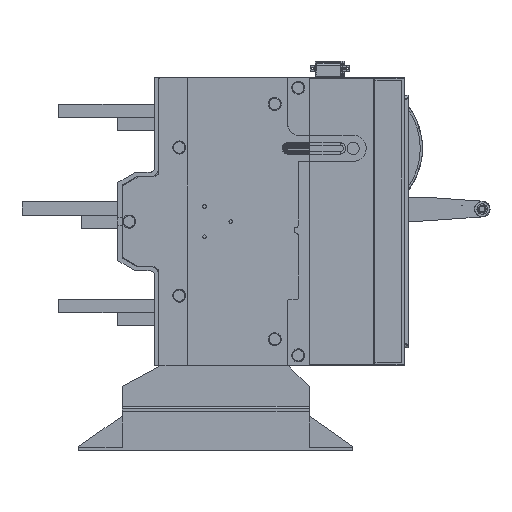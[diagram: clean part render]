
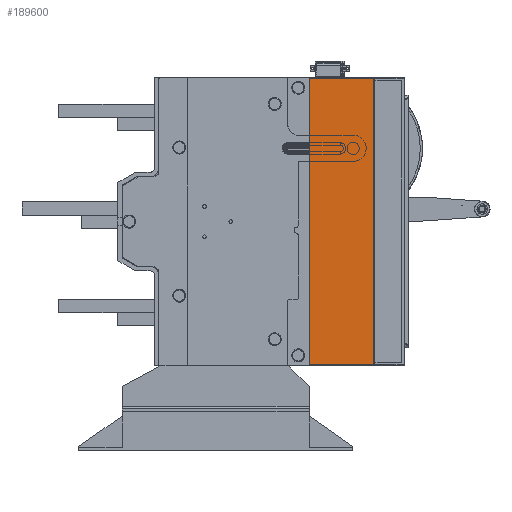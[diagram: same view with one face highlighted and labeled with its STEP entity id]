
A CAD part, left-side view. The second image highlights one B-rep face of the part: STEP entity #189600.
In plain terms, the highlighted planar face has unit normal (-1, 0, 0) as drawn and (1, 0, 0) by its records, which use the part's own axes.
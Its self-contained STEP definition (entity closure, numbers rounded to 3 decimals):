
#8621 = CARTESIAN_POINT ( 'NONE',  ( 250., -164.5, 0.5 ) ) ;
#9346 = AXIS2_PLACEMENT_3D ( 'NONE', #40882, #171751, #63600 ) ;
#14218 = CARTESIAN_POINT ( 'NONE',  ( 250., -164.5, 74. ) ) ;
#21871 = LINE ( 'NONE', #199462, #50068 ) ;
#26431 = DIRECTION ( 'NONE',  ( 0., 0., 1. ) ) ;
#27478 = DIRECTION ( 'NONE',  ( 0., 1., 0. ) ) ;
#40882 = CARTESIAN_POINT ( 'NONE',  ( 250., -165., 0. ) ) ;
#45006 = CARTESIAN_POINT ( 'NONE',  ( 250., 164.5, 0.5 ) ) ;
#48637 = ORIENTED_EDGE ( 'NONE', *, *, #171190, .F. ) ;
#50068 = VECTOR ( 'NONE', #27478, 1000. ) ;
#56962 = EDGE_CURVE ( 'NONE', #61477, #165522, #21871, .T. ) ;
#61477 = VERTEX_POINT ( 'NONE', #8621 ) ;
#63600 = DIRECTION ( 'NONE',  ( 0., 1., 0. ) ) ;
#67701 = LINE ( 'NONE', #69106, #86766 ) ;
#69106 = CARTESIAN_POINT ( 'NONE',  ( 250., 164.5, 0. ) ) ;
#83612 = ORIENTED_EDGE ( 'NONE', *, *, #191726, .T. ) ;
#86766 = VECTOR ( 'NONE', #26431, 1000. ) ;
#104469 = EDGE_LOOP ( 'NONE', ( #83612, #228525, #122416, #48637 ) ) ;
#115257 = VERTEX_POINT ( 'NONE', #206949 ) ;
#122416 = ORIENTED_EDGE ( 'NONE', *, *, #250679, .T. ) ;
#148438 = DIRECTION ( 'NONE',  ( 0., 1., 0. ) ) ;
#148963 = FACE_OUTER_BOUND ( 'NONE', #104469, .T. ) ;
#162968 = DIRECTION ( 'NONE',  ( 0., 0., -1. ) ) ;
#164338 = LINE ( 'NONE', #230886, #228372 ) ;
#165522 = VERTEX_POINT ( 'NONE', #45006 ) ;
#171190 = EDGE_CURVE ( 'NONE', #250191, #115257, #277613, .T. ) ;
#171751 = DIRECTION ( 'NONE',  ( 1., 0., 0. ) ) ;
#189600 = ADVANCED_FACE ( 'NONE', ( #148963 ), #235527, .T. ) ;
#189715 = VECTOR ( 'NONE', #148438, 1000. ) ;
#191726 = EDGE_CURVE ( 'NONE', #250191, #61477, #164338, .T. ) ;
#199462 = CARTESIAN_POINT ( 'NONE',  ( 250., -165., 0.5 ) ) ;
#206949 = CARTESIAN_POINT ( 'NONE',  ( 250., 164.5, 74. ) ) ;
#228372 = VECTOR ( 'NONE', #162968, 1000. ) ;
#228525 = ORIENTED_EDGE ( 'NONE', *, *, #56962, .T. ) ;
#230886 = CARTESIAN_POINT ( 'NONE',  ( 250., -164.5, 0. ) ) ;
#235527 = PLANE ( 'NONE',  #9346 ) ;
#250191 = VERTEX_POINT ( 'NONE', #14218 ) ;
#250679 = EDGE_CURVE ( 'NONE', #165522, #115257, #67701, .T. ) ;
#256360 = CARTESIAN_POINT ( 'NONE',  ( 250., 0., 74. ) ) ;
#277613 = LINE ( 'NONE', #256360, #189715 ) ;
